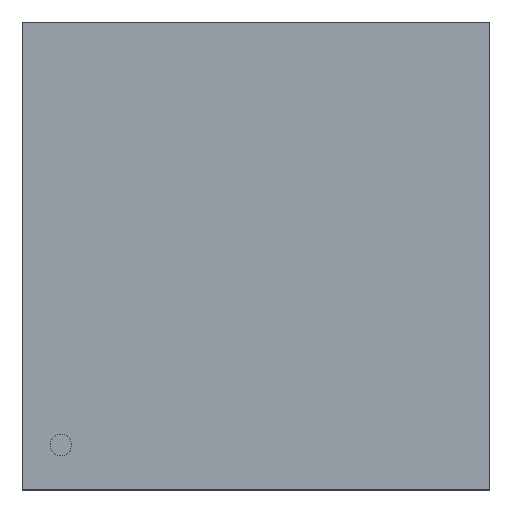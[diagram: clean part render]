
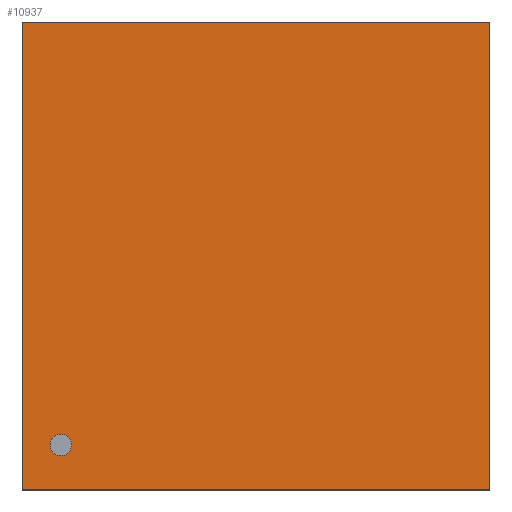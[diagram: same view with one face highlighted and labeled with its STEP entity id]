
A CAD part, top view. The second image highlights one B-rep face of the part: STEP entity #10937.
In plain terms, the highlighted planar face has unit normal (0, 0, 1).
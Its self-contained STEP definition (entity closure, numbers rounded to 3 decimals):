
#468 = DIRECTION ( 'NONE',  ( 0., 0., -1. ) ) ;
#815 = ORIENTED_EDGE ( 'NONE', *, *, #2295, .T. ) ;
#2295 = EDGE_CURVE ( 'NONE', #43363, #45262, #48859, .T. ) ;
#4869 = LINE ( 'NONE', #44157, #28644 ) ;
#9258 = AXIS2_PLACEMENT_3D ( 'NONE', #47217, #468, #17999 ) ;
#9867 = ORIENTED_EDGE ( 'NONE', *, *, #51179, .T. ) ;
#10937 = ADVANCED_FACE ( 'NONE', ( #42780, #43491 ), #49075, .T. ) ;
#15119 = DIRECTION ( 'NONE',  ( -1., 0., 0. ) ) ;
#16725 = EDGE_LOOP ( 'NONE', ( #49343, #36424, #40806, #815 ) ) ;
#17999 = DIRECTION ( 'NONE',  ( 1., 0., 0. ) ) ;
#18390 = CARTESIAN_POINT ( 'NONE',  ( -6.255, -6.059, 1.46 ) ) ;
#19235 = EDGE_CURVE ( 'NONE', #42975, #66388, #4869, .T. ) ;
#21464 = VECTOR ( 'NONE', #15119, 1000. ) ;
#28644 = VECTOR ( 'NONE', #67810, 1000. ) ;
#31684 = CARTESIAN_POINT ( 'NONE',  ( 7.5, 7.5, 1.46 ) ) ;
#33271 = CARTESIAN_POINT ( 'NONE',  ( 7.5, 0., 1.46 ) ) ;
#36424 = ORIENTED_EDGE ( 'NONE', *, *, #19235, .T. ) ;
#36501 = EDGE_CURVE ( 'NONE', #60874, #45774, #37428, .T. ) ;
#37428 = CIRCLE ( 'NONE', #44412, 0.343 ) ;
#38040 = ORIENTED_EDGE ( 'NONE', *, *, #36501, .T. ) ;
#40806 = ORIENTED_EDGE ( 'NONE', *, *, #55674, .T. ) ;
#40977 = DIRECTION ( 'NONE',  ( 0., 0., -1. ) ) ;
#41213 = CIRCLE ( 'NONE', #9258, 0.343 ) ;
#42780 = FACE_OUTER_BOUND ( 'NONE', #16725, .T. ) ;
#42975 = VERTEX_POINT ( 'NONE', #43135 ) ;
#43135 = CARTESIAN_POINT ( 'NONE',  ( -7.5, -7.5, 1.46 ) ) ;
#43363 = VERTEX_POINT ( 'NONE', #31684 ) ;
#43491 = FACE_BOUND ( 'NONE', #65381, .T. ) ;
#43812 = CARTESIAN_POINT ( 'NONE',  ( -7.5, 7.5, 1.46 ) ) ;
#43845 = DIRECTION ( 'NONE',  ( 0., 0., 1. ) ) ;
#44157 = CARTESIAN_POINT ( 'NONE',  ( 0., -7.5, 1.46 ) ) ;
#44412 = AXIS2_PLACEMENT_3D ( 'NONE', #18390, #40977, #72435 ) ;
#45262 = VERTEX_POINT ( 'NONE', #43812 ) ;
#45774 = VERTEX_POINT ( 'NONE', #70945 ) ;
#47217 = CARTESIAN_POINT ( 'NONE',  ( -6.255, -6.059, 1.46 ) ) ;
#48859 = LINE ( 'NONE', #65101, #21464 ) ;
#49075 = PLANE ( 'NONE',  #66815 ) ;
#49343 = ORIENTED_EDGE ( 'NONE', *, *, #61991, .T. ) ;
#49827 = LINE ( 'NONE', #33271, #71219 ) ;
#50756 = CARTESIAN_POINT ( 'NONE',  ( -7.5, 0., 1.46 ) ) ;
#51179 = EDGE_CURVE ( 'NONE', #45774, #60874, #41213, .T. ) ;
#54937 = DIRECTION ( 'NONE',  ( 1., 0., 0. ) ) ;
#55674 = EDGE_CURVE ( 'NONE', #66388, #43363, #49827, .T. ) ;
#60154 = CARTESIAN_POINT ( 'NONE',  ( -6.598, -6.059, 1.46 ) ) ;
#60874 = VERTEX_POINT ( 'NONE', #60154 ) ;
#61991 = EDGE_CURVE ( 'NONE', #45262, #42975, #67008, .T. ) ;
#64822 = CARTESIAN_POINT ( 'NONE',  ( 7.5, -7.5, 1.46 ) ) ;
#65101 = CARTESIAN_POINT ( 'NONE',  ( 0., 7.5, 1.46 ) ) ;
#65381 = EDGE_LOOP ( 'NONE', ( #9867, #38040 ) ) ;
#66388 = VERTEX_POINT ( 'NONE', #64822 ) ;
#66795 = DIRECTION ( 'NONE',  ( 0., 1., 0. ) ) ;
#66815 = AXIS2_PLACEMENT_3D ( 'NONE', #71542, #43845, #54937 ) ;
#67008 = LINE ( 'NONE', #50756, #71422 ) ;
#67759 = DIRECTION ( 'NONE',  ( 0., -1., 0. ) ) ;
#67810 = DIRECTION ( 'NONE',  ( 1., 0., 0. ) ) ;
#70945 = CARTESIAN_POINT ( 'NONE',  ( -5.912, -6.059, 1.46 ) ) ;
#71219 = VECTOR ( 'NONE', #66795, 1000. ) ;
#71422 = VECTOR ( 'NONE', #67759, 1000. ) ;
#71542 = CARTESIAN_POINT ( 'NONE',  ( 0., 0., 1.46 ) ) ;
#72435 = DIRECTION ( 'NONE',  ( 1., 0., 0. ) ) ;
